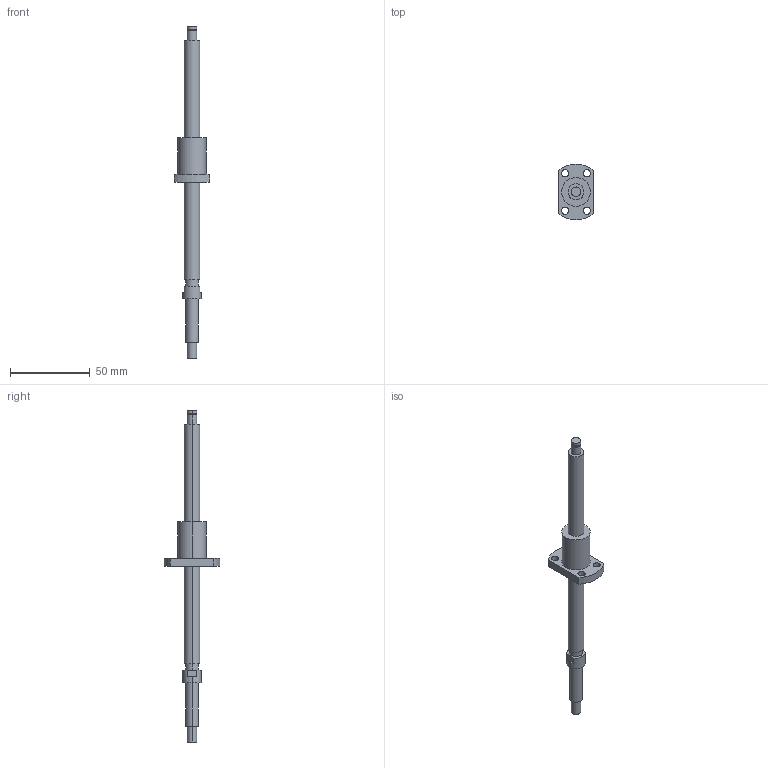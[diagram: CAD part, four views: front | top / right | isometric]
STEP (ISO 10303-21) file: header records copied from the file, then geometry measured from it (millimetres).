
FILE_DESCRIPTION((''),'2;1');
FILE_NAME('R10-2T3-FSI-150-208','2008-03-28T',('mahdi'),(''),'PRO/ENGINEER BY PARAMETRIC TECHNOLOGY CORPORATION, 2005070','PRO/ENGINEER BY PARAMETRIC TECHNOLOGY CORPORATION, 2005070','');
FILE_SCHEMA(('CONFIG_CONTROL_DESIGN'));
Length unit declared in the file: millimetre
Products named in the file (1): R10-2T3-FSI-150-208
Bounding box: 22 x 35 x 208 mm (x, y, z)
Volume: 21596.5 mm3; surface area: 8766.7 mm2
Topology: 1 solids, 1 shells, 48 faces, 108 edges, 72 vertices
Faces by surface type: cylinder 30, plane 18
Entity records: 1430 total; most frequent: DIRECTION 268, CARTESIAN_POINT 228, ORIENTED_EDGE 216, AXIS2_PLACEMENT_3D 112, EDGE_CURVE 108, VERTEX_POINT 72, EDGE_LOOP 66, CIRCLE 64
